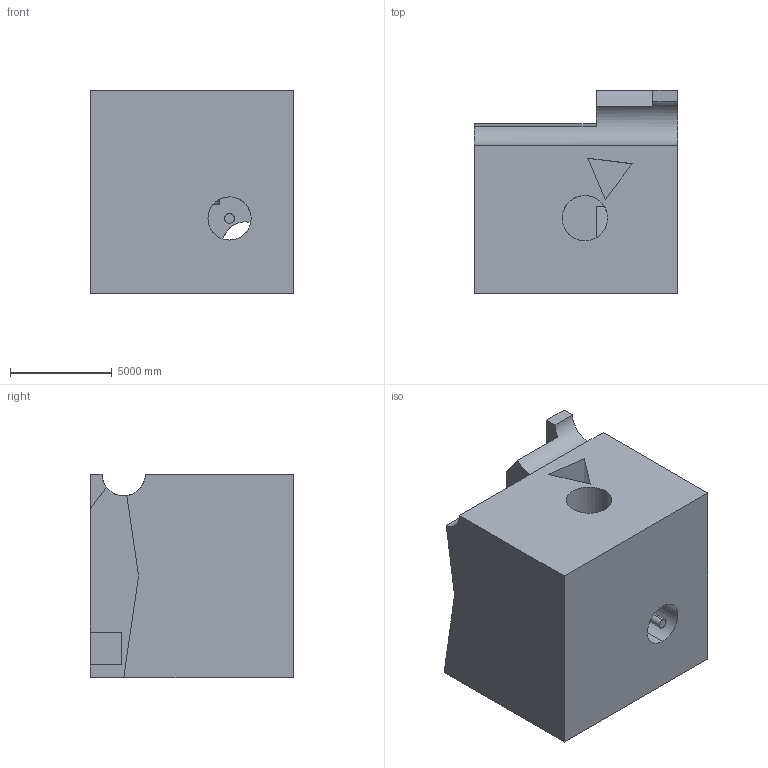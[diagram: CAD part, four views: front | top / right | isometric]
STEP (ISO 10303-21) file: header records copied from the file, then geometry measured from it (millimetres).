
FILE_DESCRIPTION (( 'STEP AP203' ), '1' );
FILE_NAME ('1987.STEP', '2022-08-23T10:18:06', ( 'user' ), ( '' ), 'SwSTEP 2.0', 'SolidWorks 2021', '' );
FILE_SCHEMA (( 'CONFIG_CONTROL_DESIGN' ));
Length unit declared in the file: centimetre
Products named in the file (1): 1987
Bounding box: 10000 x 10000 x 10000 mm (x, y, z)
Volume: 783464874319.6 mm3; surface area: 734564945.6 mm2
Topology: 1 solids, 1 shells, 43 faces, 117 edges, 78 vertices
Faces by surface type: plane 34, cylinder 9
Entity records: 1515 total; most frequent: CARTESIAN_POINT 315, ORIENTED_EDGE 234, DIRECTION 230, EDGE_CURVE 117, VECTOR 88, LINE 88, VERTEX_POINT 78, AXIS2_PLACEMENT_3D 71
